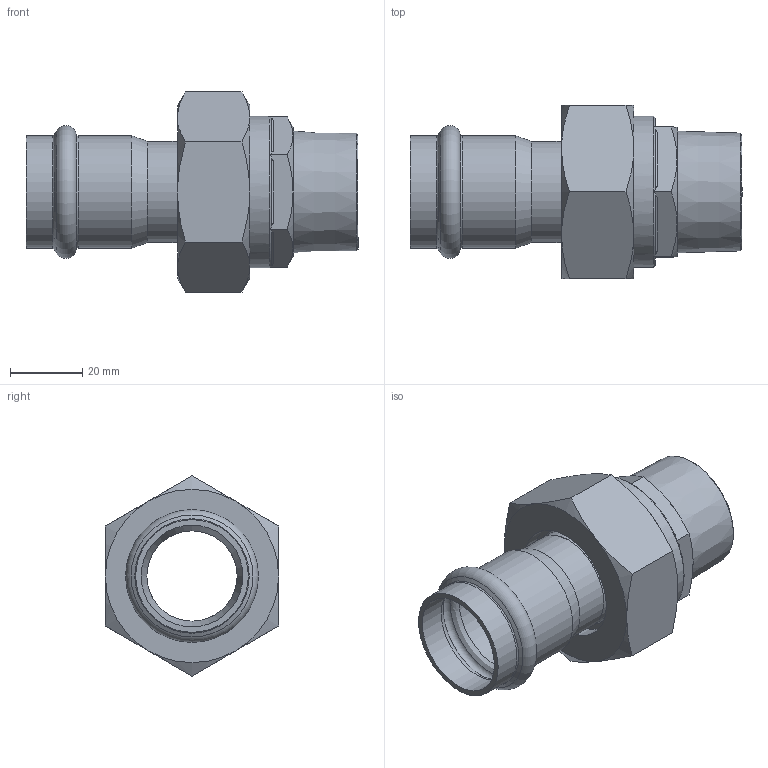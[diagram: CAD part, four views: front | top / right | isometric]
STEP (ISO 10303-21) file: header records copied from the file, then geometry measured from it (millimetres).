
FILE_DESCRIPTION((''),'2;1');
FILE_NAME('G:\Nirosan-Schmiedefeld\Technics\CAD\Bauteile VA\028\69333g281(3).stp','2011-05-25T11:38:58',('herberg'),(''),'Autodesk Inventor 2009','Autodesk Inventor 2009','');
FILE_SCHEMA(('AUTOMOTIVE_DESIGN { 1 0 10303 214 1 1 1 1 }'));
Length unit declared in the file: millimetre
Products named in the file (7): 69333g281(3); 69359mms28114(1); HM_6924328(1); R28114(0); FD_3827_EPDM(0); MS_SM28114(2); 69376G1141(1)
Assembly tree (6 placements, depth 3):
  69333g281(3)
    69359mms28114(1)
      HM_6924328(1)
      R28114(0)
      FD_3827_EPDM(0)
      MS_SM28114(2)
    69376G1141(1)
Bounding box: 92 x 48 x 55.43 mm (x, y, z)
Volume: 49140.2 mm3; surface area: 30203.4 mm2
Topology: 5 solids, 5 shells, 89 faces, 203 edges, 127 vertices
Faces by surface type: plane 30, cone 28, cylinder 18, bspline 11, torus 2
Full cylindrical faces by diameter (mm): 25 x2, 27 x1, 28 x2, 28.2 x2, 31.2 x2, 38 x2, 41.91 x1
Entity records: 2945 total; most frequent: CARTESIAN_POINT 1070, DIRECTION 344, ORIENTED_EDGE 330, EDGE_CURVE 165, AXIS2_PLACEMENT_3D 160, EDGE_LOOP 136, VERTEX_POINT 123, FACE_OUTER_BOUND 89
